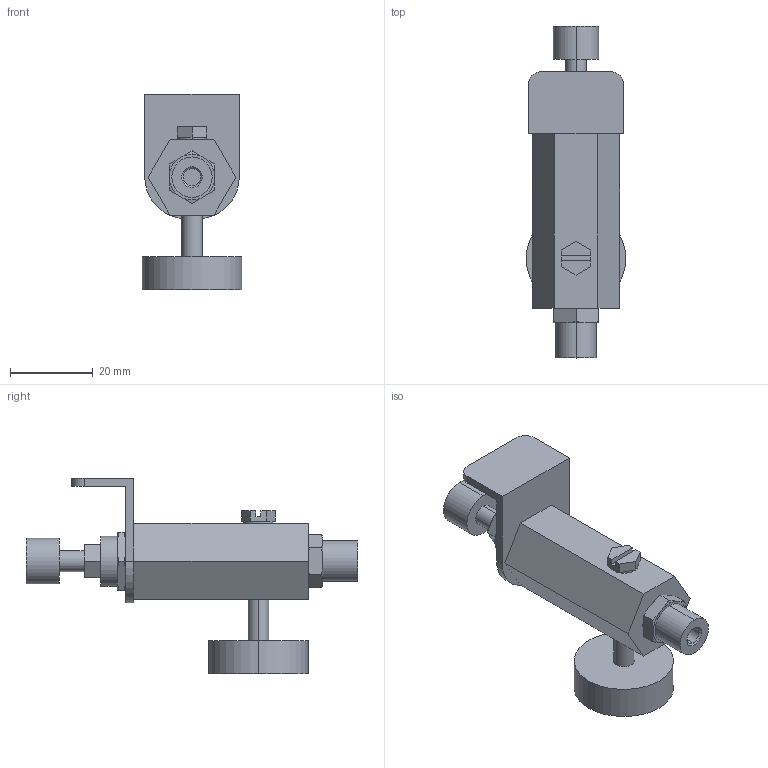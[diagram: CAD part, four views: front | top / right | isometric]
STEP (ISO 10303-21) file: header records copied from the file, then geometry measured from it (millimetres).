
FILE_DESCRIPTION (( 'STEP AP214' ), '1' );
FILE_NAME ('ARJ210-M5.STEP', '2019-11-18T01:15:49', ( '微软用户' ), ( '微软中国' ), 'SwSTEP 2.0', 'SolidWorks 2016', '' );
FILE_SCHEMA (( 'AUTOMOTIVE_DESIGN' ));
Length unit declared in the file: millimetre
Products named in the file (1): ARJ210-M5
Bounding box: 23.95 x 80 x 47.15 mm (x, y, z)
Volume: 20564 mm3; surface area: 8170.2 mm2
Topology: 3 solids, 3 shells, 135 faces, 306 edges, 185 vertices
Faces by surface type: plane 62, cone 49, cylinder 24
Entity records: 3839 total; most frequent: CARTESIAN_POINT 875, ORIENTED_EDGE 604, DIRECTION 589, EDGE_CURVE 302, AXIS2_PLACEMENT_3D 235, VERTEX_POINT 185, EDGE_LOOP 147, FACE_OUTER_BOUND 135
